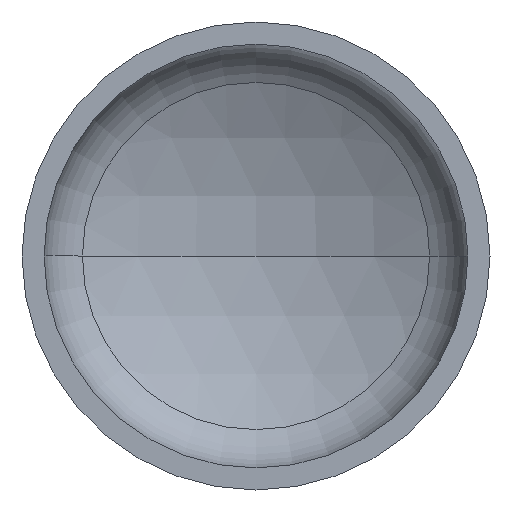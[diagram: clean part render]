
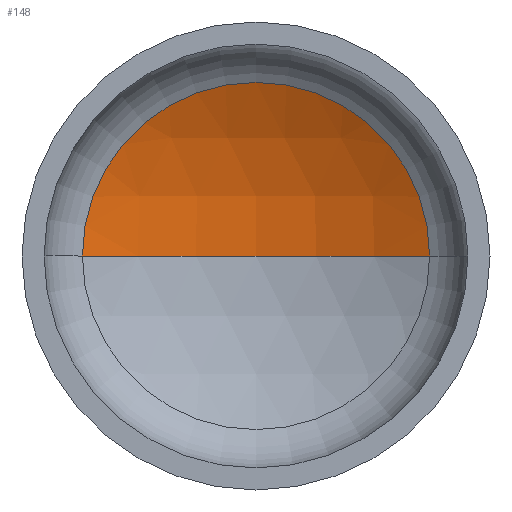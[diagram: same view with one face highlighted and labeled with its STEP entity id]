
A CAD part, front view. The second image highlights one B-rep face of the part: STEP entity #148.
In plain terms, the highlighted spherical face has radius 1360 mm.
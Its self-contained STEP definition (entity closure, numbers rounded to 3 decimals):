
#2 = AXIS2_PLACEMENT_3D ( 'NONE', #374, #152, #322 ) ;
#11 = AXIS2_PLACEMENT_3D ( 'NONE', #170, #340, #82 ) ;
#15 = AXIS2_PLACEMENT_3D ( 'NONE', #404, #265, #267 ) ;
#21 = VERTEX_POINT ( 'NONE', #288 ) ;
#26 = EDGE_LOOP ( 'NONE', ( #286, #140, #121 ) ) ;
#36 = VERTEX_POINT ( 'NONE', #283 ) ;
#45 = AXIS2_PLACEMENT_3D ( 'NONE', #213, #212, #207 ) ;
#82 = DIRECTION ( 'NONE',  ( -1., 0., 0. ) ) ;
#113 = VERTEX_POINT ( 'NONE', #214 ) ;
#121 = ORIENTED_EDGE ( 'NONE', *, *, #348, .T. ) ;
#140 = ORIENTED_EDGE ( 'NONE', *, *, #354, .T. ) ;
#148 = ADVANCED_FACE ( 'NONE', ( #377 ), #188, .F. ) ;
#152 = DIRECTION ( 'NONE',  ( 0., 0., 1. ) ) ;
#170 = CARTESIAN_POINT ( 'NONE',  ( 0., -854.628, 0. ) ) ;
#188 = SPHERICAL_SURFACE ( 'NONE', #45, 1360. ) ;
#207 = DIRECTION ( 'NONE',  ( -1., 0., 0. ) ) ;
#212 = DIRECTION ( 'NONE',  ( 0., 0., -1. ) ) ;
#213 = CARTESIAN_POINT ( 'NONE',  ( 0., -854.628, 0. ) ) ;
#214 = CARTESIAN_POINT ( 'NONE',  ( 0., 505.372, 0. ) ) ;
#222 = CIRCLE ( 'NONE', #11, 1360. ) ;
#264 = CIRCLE ( 'NONE', #2, 1360. ) ;
#265 = DIRECTION ( 'NONE',  ( 0., -1., 0. ) ) ;
#267 = DIRECTION ( 'NONE',  ( 1., 0., 0. ) ) ;
#283 = CARTESIAN_POINT ( 'NONE',  ( -630.545, 350.367, 0. ) ) ;
#286 = ORIENTED_EDGE ( 'NONE', *, *, #384, .F. ) ;
#288 = CARTESIAN_POINT ( 'NONE',  ( 630.545, 350.367, 0. ) ) ;
#322 = DIRECTION ( 'NONE',  ( 1., 0., 0. ) ) ;
#340 = DIRECTION ( 'NONE',  ( 0., 0., -1. ) ) ;
#348 = EDGE_CURVE ( 'NONE', #21, #36, #399, .T. ) ;
#354 = EDGE_CURVE ( 'NONE', #113, #21, #222, .T. ) ;
#374 = CARTESIAN_POINT ( 'NONE',  ( 0., -854.628, 0. ) ) ;
#377 = FACE_OUTER_BOUND ( 'NONE', #26, .T. ) ;
#384 = EDGE_CURVE ( 'NONE', #113, #36, #264, .T. ) ;
#399 = CIRCLE ( 'NONE', #15, 630.545 ) ;
#404 = CARTESIAN_POINT ( 'NONE',  ( 0., 350.367, 0. ) ) ;
